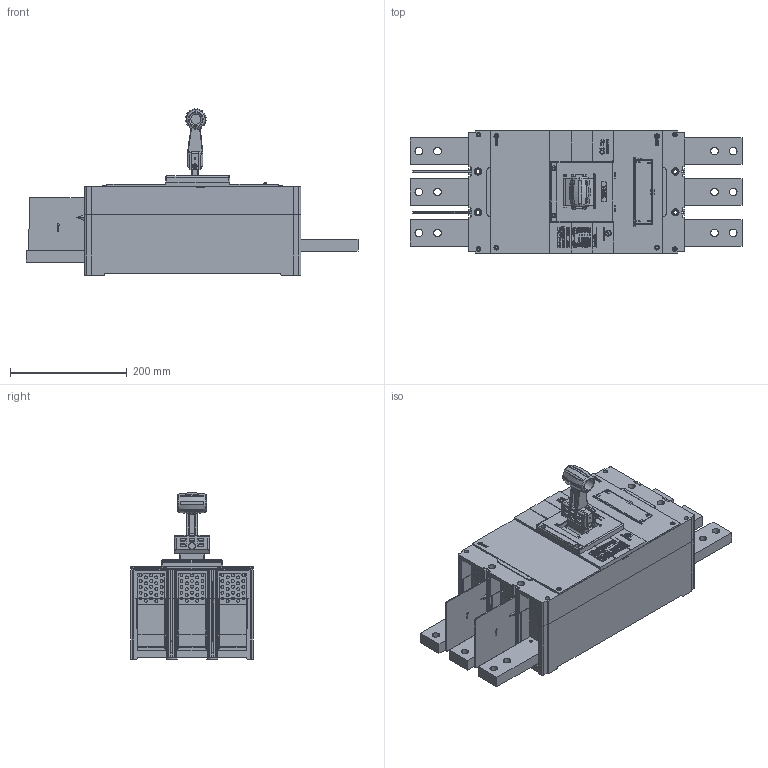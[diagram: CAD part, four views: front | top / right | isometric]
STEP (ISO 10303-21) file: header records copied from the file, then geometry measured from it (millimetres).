
FILE_DESCRIPTION(/* description */ (''),/* implementation_level */ '2;1');
FILE_NAME(/* name */ 'HGM1600_3P_un.stp',/* time_stamp */ '2022-06-08T11:38:13+09:00',/* author */ (''),/* organization */ (''),/* preprocessor_version */ 'ST-DEVELOPER v16',/* originating_system */ 'SIEMENS PLM Software NX 11.0',/* authorisation */ '');
FILE_SCHEMA (('AP203_CONFIGURATION_CONTROLLED_3D_DESIGN_OF_MECHANICAL_PARTS_AND_ASSEMBLIES_MIM_LF { 1 0 10303 403 2 1 2}'));
Products named in the file (1): HGM1600_3P_un
Bounding box: 568.25 x 210 x 284.98 mm (x, y, z)
Volume: 12145713.1 mm3; surface area: 1254325.4 mm2
Topology: 212 solids, 214 shells, 6892 faces, 18639 edges, 12340 vertices
Faces by surface type: plane 3871, extrusion 1537, cylinder 1182, cone 133, bspline 87, sphere 42, torus 40
Entity records: 231340 total; most frequent: CARTESIAN_POINT 60059, ORIENTED_EDGE 37194, DIRECTION 29957, EDGE_CURVE 18597, VECTOR 13711, VERTEX_POINT 12340, LINE 12174, AXIS2_PLACEMENT_3D 8123
